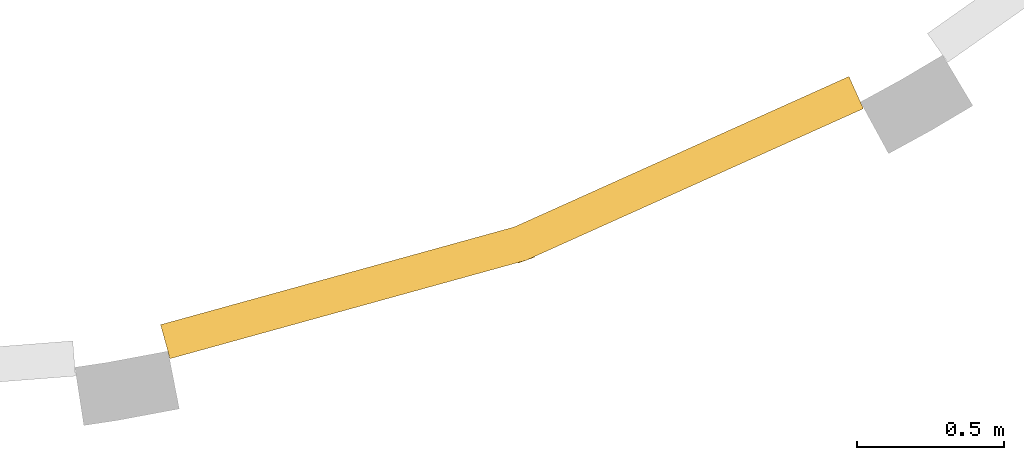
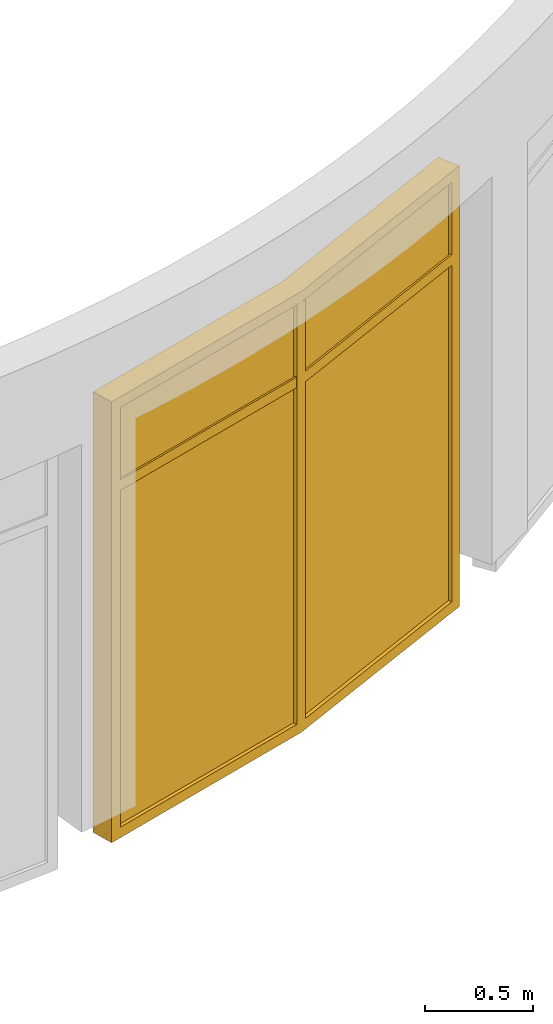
# One storey, part 5 of 7: 1 curtain wall.
"""IFC4 building model written with IfcOpenShell, lengths in millimetres."""

from ifc_helpers import new_model, entity, si_unit, converted_unit, derived_unit, direction, frame, origin_with_axes, place, context, subcontext, project, spatial, polygons, material, constituent, constituent_set, type_object, element, save


model = new_model("IFC4")

# Units and contexts
model_context = context("Model", 3, precision=0.01, world=origin_with_axes(), true_north=direction((0.0, 1.0)))
body_context = subcontext(model_context, "Body", "Model", "MODEL_VIEW")
ifc_project = project(units=[si_unit("LENGTHUNIT", "METRE", prefix="MILLI"), si_unit("AREAUNIT", "SQUARE_METRE"), si_unit("VOLUMEUNIT", "CUBIC_METRE"), converted_unit("PLANEANGLEUNIT", "DEGREE", entity("IfcPlaneAngleMeasure", 0.0174532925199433), si_unit("PLANEANGLEUNIT", "RADIAN"), dimensions=[0, 0, 0, 0, 0, 0, 0]), converted_unit("TIMEUNIT", "Year", entity("IfcTimeMeasure", 31557600.0), si_unit("TIMEUNIT", "SECOND"), dimensions=[0, 0, 1, 0, 0, 0, 0]), si_unit("MASSUNIT", "GRAM", prefix="KILO"), si_unit("THERMODYNAMICTEMPERATUREUNIT", "DEGREE_CELSIUS"), si_unit("LUMINOUSINTENSITYUNIT", "LUMEN"), si_unit("ENERGYUNIT", "JOULE", prefix="MEGA"), derived_unit("THERMALCONDUCTANCEUNIT", [(si_unit("POWERUNIT", "WATT"), 1), (si_unit("LENGTHUNIT", "METRE"), -1), (si_unit("THERMODYNAMICTEMPERATUREUNIT", "KELVIN"), -1)]), derived_unit("SPECIFICHEATCAPACITYUNIT", [(si_unit("ENERGYUNIT", "JOULE"), 1), (si_unit("MASSUNIT", "GRAM", prefix="KILO"), -1), (si_unit("THERMODYNAMICTEMPERATUREUNIT", "KELVIN"), -1)]), derived_unit("MASSDENSITYUNIT", [(si_unit("MASSUNIT", "GRAM", prefix="KILO"), 1), (si_unit("VOLUMEUNIT", "CUBIC_METRE"), -1)])], contexts=[model_context])

# Site, building, storey
site_placement = place(None, origin_with_axes())
site = spatial("IfcSite", under=ifc_project, at=site_placement, Name="Exteriér", CompositionType="ELEMENT")
building_placement = place(site_placement, origin_with_axes())
building = spatial("IfcBuilding", under=site, at=building_placement, Name="Univerzitní lezecké centrum", CompositionType="ELEMENT")
storey_placement = place(building_placement, origin_with_axes())
storey = spatial("IfcBuildingStorey", under=building, at=storey_placement, Name="1.NP", CompositionType="ELEMENT", Elevation=0.0)

# Curtain wall
ifc_material_1 = material(Name="Sklo")
ifc_constituent_1 = constituent(ifc_material_1, Name="Sklo 1")
ifc_constituent_2 = constituent(ifc_material_1, Name="Sklo 2")
ifc_constituent_3 = constituent(ifc_material_1, Name="Sklo 3")
ifc_constituent_4 = constituent(ifc_material_1, Name="Sklo 4")
ifc_material_2 = material(Name="Hliník")
ifc_constituent_5 = constituent(ifc_material_2, Name="Hliník 1")
ifc_constituent_6 = constituent(ifc_material_2, Name="Hliník 2")
ifc_constituent_7 = constituent(ifc_material_2, Name="Hliník 3")
ifc_constituent_8 = constituent(ifc_material_2, Name="Hliník 4")
ifc_constituent_9 = constituent(ifc_material_2, Name="Hliník 5")
ifc_constituent_10 = constituent(ifc_material_2, Name="Hliník 6")
ifc_constituent_11 = constituent(ifc_material_2, Name="Hliník 7")
ifc_constituent_12 = constituent(ifc_material_2, Name="Hliník 8")
ifc_constituent_13 = constituent(ifc_material_2, Name="Hliník 9")
ifc_constituent_14 = constituent(ifc_material_2, Name="Hliník 10")
ifc_constituent_15 = constituent(ifc_material_2, Name="Hliník 11")
ifc_constituent_16 = constituent(ifc_material_2, Name="Hliník 12")
ifc_constituent_set = constituent_set(constituents=[ifc_constituent_1, ifc_constituent_2, ifc_constituent_3, ifc_constituent_4, ifc_constituent_5, ifc_constituent_6, ifc_constituent_7, ifc_constituent_8, ifc_constituent_9, ifc_constituent_10, ifc_constituent_11, ifc_constituent_12, ifc_constituent_13, ifc_constituent_14, ifc_constituent_15, ifc_constituent_16])
curtain_wall_type = type_object("IfcCurtainWallType", Name="Typ lehkého obvodového pláště", PredefinedType="NOTDEFINED")
curtain_wall_placement = place(storey_placement, frame((5795.379928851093, -7755.096795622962, 0.0), z_axis=(0.0, 0.0, 1.0), x_axis=(1.0, 0.0, 0.0)))
element("IfcCurtainWall", 1, at=curtain_wall_placement, inside=storey, type_object=curtain_wall_type, material=ifc_constituent_set, Name="LOP01", PredefinedType="NOTDEFINED", context=body_context, shape_type="Tessellation", body=[
    polygons([(-575.7231105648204, -247.9418033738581, 2469.999973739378), (-567.5202684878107, -266.1822359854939, 2469.999973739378), (548.4427526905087, 235.6736476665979, 2469.999973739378), (540.2399106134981, 253.9140802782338, 2469.999973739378), (-575.7231105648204, -247.9418033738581, 2002.999991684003), (-567.5202684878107, -266.1822359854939, 2002.999991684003), (548.4427526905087, 235.6736476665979, 2002.999991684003), (540.2399106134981, 253.9140802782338, 2002.999991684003)], [[[1, 2, 3, 4]], [[5, 6, 2, 1]], [[2, 6, 7, 3]], [[4, 3, 7, 8]], [[1, 4, 8, 5]], [[8, 7, 6, 5]]], closed=True),
    polygons([(-575.7231141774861, -247.9418049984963, 1997.00000596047), (-567.5202721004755, -266.1822376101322, 1997.00000596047), (548.4427449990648, 235.6736442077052, 1997.00000596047), (540.2399029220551, 253.9140768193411, 1997.00000596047), (-575.7231141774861, -247.9418049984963, 30.00000000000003), (-567.5202721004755, -266.1822376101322, 30.00000000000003), (548.4427449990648, 235.6736442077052, 30.0), (540.2399029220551, 253.9140768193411, 30.0)], [[[1, 2, 3, 4]], [[5, 6, 2, 1]], [[2, 6, 7, 3]], [[4, 3, 7, 8]], [[1, 4, 8, 5]], [[8, 7, 6, 5]]], closed=True),
    polygons([(-1753.871751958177, -573.3620125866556, 1997.00000596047), (-1748.545250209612, -592.6396778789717, 1997.00000596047), (-569.1235785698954, -266.7604025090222, 1997.00000596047), (-574.45008031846, -247.4827372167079, 1997.00000596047), (-1753.871751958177, -573.3620125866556, 30.00000000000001), (-1748.545250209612, -592.6396778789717, 30.00000000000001), (-569.1235785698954, -266.7604025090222, 29.99999999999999), (-574.45008031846, -247.4827372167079, 29.99999999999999)], [[[1, 2, 3, 4]], [[5, 6, 2, 1]], [[2, 6, 7, 3]], [[4, 3, 7, 8]], [[1, 4, 8, 5]], [[8, 7, 6, 5]]], closed=True),
    polygons([(-1753.871748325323, -573.3620115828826, 2469.999973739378), (-1748.545246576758, -592.6396768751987, 2469.999973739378), (-569.1235706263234, -266.7604003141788, 2469.999973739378), (-574.450072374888, -247.4827350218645, 2469.999973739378), (-1753.871748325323, -573.3620115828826, 2002.999991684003), (-1748.545246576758, -592.6396768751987, 2002.999991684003), (-569.1235706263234, -266.7604003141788, 2002.999991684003), (-574.450072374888, -247.4827350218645, 2002.999991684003)], [[[1, 2, 3, 4]], [[5, 6, 2, 1]], [[2, 6, 7, 3]], [[4, 3, 7, 8]], [[1, 4, 8, 5]], [[8, 7, 6, 5]]], closed=True),
    polygons([(-575.1041888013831, -247.663470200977, 30.00000000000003), (-575.1041888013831, -247.663470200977, 60.00000000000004), (-602.3219161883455, -172.1862427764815, 60.00000000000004), (-602.3219161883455, -172.1862427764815, 0.0), (-561.4953251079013, -285.4020839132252, 0.0), (-561.4953251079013, -285.4020839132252, 60.00000000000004), (-568.2997569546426, -266.5327770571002, 60.00000000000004), (-568.2997569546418, -266.5327770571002, 30.00000000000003), (540.2399029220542, 253.9140768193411, 30.0), (512.8792540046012, 241.6098137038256, 60.0), (480.0678856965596, 314.5715441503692, 60.0), (534.7891835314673, 339.1800703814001, 0.0), (584.0062359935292, 229.7374747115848, 0.0), (529.2849381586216, 205.1289484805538, 60.0), (521.082096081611, 223.3693810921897, 60.0), (548.4427449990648, 235.6736442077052, 30.0)], [[[1, 2, 3, 4, 5, 6, 7, 8]], [[1, 9, 10, 2]], [[10, 11, 3, 2]], [[3, 11, 12, 4]], [[4, 12, 13, 5]], [[5, 13, 14, 6]], [[7, 6, 14, 15]], [[15, 16, 8, 7]], [[8, 16, 9, 1]], [[9, 16, 15, 14, 13, 12, 11, 10]]], closed=True),
    polygons([(540.2399029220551, 253.9140768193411, 2000.0), (548.4427449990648, 235.6736442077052, 2000.0), (521.082096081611, 223.3693810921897, 2000.0), (529.2849381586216, 205.1289484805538, 2000.0), (584.0062359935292, 229.7374747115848, 2000.0), (534.7891835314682, 339.1800703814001, 2000.0), (480.0678856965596, 314.5715441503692, 2000.0), (512.8792540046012, 241.6098137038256, 2000.0), (540.2399029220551, 253.9140768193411, 30.00000000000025), (548.4427449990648, 235.6736442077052, 30.00000000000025), (521.082096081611, 223.3693810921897, 59.99999999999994), (529.2849381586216, 205.1289484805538, 59.99999999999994), (584.0062359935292, 229.7374747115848, 0.0), (534.7891835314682, 339.1800703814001, 0.0), (480.0678856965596, 314.5715441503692, 60.00000000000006), (512.8792540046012, 241.6098137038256, 59.99999999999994)], [[[1, 2, 3, 4, 5, 6, 7, 8]], [[2, 1, 9, 10]], [[11, 3, 2, 10]], [[3, 11, 12, 4]], [[5, 4, 12, 13]], [[6, 5, 13, 14]], [[7, 6, 14, 15]], [[16, 8, 7, 15]], [[1, 8, 16, 9]], [[9, 16, 15, 14, 13, 12, 11, 10]]], closed=True),
    polygons([(-575.1041888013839, -247.663470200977, 60.00000000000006), (-547.663250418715, -235.3231003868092, 60.00000000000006), (-547.663250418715, -235.3231003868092, 2000.0), (-575.1041888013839, -247.663470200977, 2000.0), (-604.1055418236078, -255.6766686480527, 60.00000000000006), (-610.0999027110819, -239.0537620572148, 60.00000000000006), (-553.6576113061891, -218.7001937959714, 60.00000000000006), (-553.6576113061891, -218.7001937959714, 2000.0), (-610.0999027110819, -239.0537620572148, 2000.0), (-604.1055418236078, -255.6766686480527, 2000.0)], [[[1, 2, 3, 4]], [[5, 6, 7, 2, 1]], [[3, 2, 7, 8]], [[4, 3, 8, 9, 10]], [[10, 5, 1, 4]], [[10, 9, 6, 5]], [[9, 8, 7, 6]]], closed=True),
    polygons([(-597.3011099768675, -274.5459755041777, 2000.0), (-589.7463344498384, -295.4960534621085, 2000.0), (-533.3040430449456, -275.1424852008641, 2000.0), (-540.8588185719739, -254.1924072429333, 2000.0), (-567.520262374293, -266.1822332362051, 2000.0), (-572.0926480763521, -256.0147458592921, 2000.0), (-569.123577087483, -266.7604020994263, 2000.0), (-597.3011099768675, -274.5459755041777, 59.99999999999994), (-589.7463344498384, -295.4960534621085, 59.99999999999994), (-533.3040430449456, -275.1424852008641, 59.99999999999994), (-540.8588185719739, -254.1924072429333, 59.99999999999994), (-567.520262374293, -266.1822332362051, 60.00000000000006), (-572.0926480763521, -256.0147458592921, 60.00000000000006), (-569.123577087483, -266.7604020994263, 60.00000000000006)], [[[1, 2, 3, 4, 5, 6, 7]], [[8, 9, 2, 1]], [[3, 2, 9, 10]], [[11, 4, 3, 10]], [[4, 11, 12, 5]], [[6, 5, 12, 13]], [[13, 14, 7, 6]], [[7, 14, 8, 1]], [[14, 13, 12, 11, 10, 9, 8]]], closed=True),
    polygons([(540.2399029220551, 253.9140768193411, 2469.999914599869), (548.4427449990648, 235.6736442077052, 2469.999914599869), (521.082096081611, 223.3693810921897, 2439.999914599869), (529.2849381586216, 205.1289484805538, 2439.999914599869), (584.0062359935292, 229.7374747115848, 2499.999914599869), (534.7891835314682, 339.1800703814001, 2499.999914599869), (480.0678856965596, 314.5715441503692, 2439.999914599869), (512.8792540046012, 241.6098137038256, 2439.999914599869), (540.2399029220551, 253.9140768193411, 2000.0), (548.4427449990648, 235.6736442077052, 2000.0), (521.082096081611, 223.3693810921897, 2000.0), (529.2849381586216, 205.1289484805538, 2000.0), (584.0062359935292, 229.7374747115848, 2000.0), (534.7891835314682, 339.1800703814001, 2000.0), (480.0678856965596, 314.5715441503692, 2000.0), (512.8792540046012, 241.6098137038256, 2000.0)], [[[1, 2, 3, 4, 5, 6, 7, 8]], [[2, 1, 9, 10]], [[11, 3, 2, 10]], [[3, 11, 12, 4]], [[13, 5, 4, 12]], [[14, 6, 5, 13]], [[15, 7, 6, 14]], [[16, 8, 7, 15]], [[1, 8, 16, 9]], [[9, 16, 15, 14, 13, 12, 11, 10]]], closed=True),
    polygons([(-575.1041888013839, -247.663470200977, 2000.0), (-547.663250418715, -235.3231003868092, 2000.0), (-547.663250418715, -235.3231003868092, 2439.999966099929), (-575.1041888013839, -247.663470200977, 2439.999966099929), (-604.1055418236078, -255.6766686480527, 2000.0), (-610.0999027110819, -239.0537620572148, 2000.0), (-553.6576113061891, -218.7001937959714, 2000.0), (-553.6576113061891, -218.7001937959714, 2439.999966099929), (-610.0999027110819, -239.0537620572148, 2439.999966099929), (-604.1055418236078, -255.6766686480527, 2439.999966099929)], [[[1, 2, 3, 4]], [[5, 6, 7, 2, 1]], [[3, 2, 7, 8]], [[4, 3, 8, 9, 10]], [[10, 5, 1, 4]], [[10, 9, 6, 5]], [[8, 7, 6, 9]]], closed=True),
    polygons([(-597.3011099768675, -274.5459755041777, 2439.999966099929), (-589.7463344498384, -295.4960534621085, 2439.999966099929), (-533.3040430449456, -275.1424852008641, 2439.999966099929), (-540.8588185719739, -254.1924072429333, 2439.999966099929), (-567.520262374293, -266.1822332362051, 2439.999966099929), (-572.0926480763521, -256.0147458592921, 2439.999966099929), (-569.123577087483, -266.7604020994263, 2439.999966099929), (-597.3011099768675, -274.5459755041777, 2000.0), (-589.7463344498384, -295.4960534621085, 2000.0), (-533.3040430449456, -275.1424852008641, 2000.0), (-540.8588185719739, -254.1924072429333, 2000.0), (-567.520262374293, -266.1822332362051, 2000.0), (-572.0926480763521, -256.0147458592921, 2000.0), (-569.123577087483, -266.7604020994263, 2000.0)], [[[1, 2, 3, 4, 5, 6, 7]], [[8, 9, 2, 1]], [[2, 9, 10, 3]], [[11, 4, 3, 10]], [[4, 11, 12, 5]], [[6, 5, 12, 13]], [[13, 14, 7, 6]], [[7, 14, 8, 1]], [[14, 13, 12, 11, 10, 9, 8]]], closed=True),
    polygons([(-550.9849412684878, -225.852234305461, 1997.0), (-537.3760775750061, -263.5908480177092, 1997.0), (-537.3760775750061, -263.5908480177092, 1970.0), (-533.9738616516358, -273.0255014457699, 1970.0), (-533.9738616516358, -273.0255014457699, 2030.0), (-537.3760775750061, -263.5908480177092, 2030.0), (-537.3760775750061, -263.5908480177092, 2003.0), (-550.9849412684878, -225.852234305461, 2003.0), (-550.9849412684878, -225.852234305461, 2030.0), (-554.3871571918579, -216.4175808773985, 2030.0), (-554.3871571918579, -216.4175808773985, 1970.0), (-550.9849412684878, -225.852234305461, 1970.0), (508.7778329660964, 250.7300300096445, 1997.0), (525.1835171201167, 214.2491647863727, 1997.0), (525.1835171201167, 214.2491647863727, 1970.0), (529.2849381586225, 205.1289484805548, 1970.0), (529.2849381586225, 205.1289484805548, 2030.0), (525.1835171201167, 214.2491647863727, 2030.0), (525.1835171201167, 214.2491647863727, 2003.0), (508.7778329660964, 250.7300300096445, 2003.0), (508.7778329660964, 250.7300300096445, 2030.0), (504.6764119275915, 259.8502463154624, 2030.0), (504.6764119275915, 259.8502463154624, 1970.0), (508.7778329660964, 250.7300300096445, 1970.0)], [[[1, 2, 3, 4, 5, 6, 7, 8, 9, 10, 11, 12]], [[1, 13, 14, 2]], [[2, 14, 15, 3]], [[15, 16, 4, 3]], [[5, 4, 16, 17]], [[18, 6, 5, 17]], [[6, 18, 19, 7]], [[8, 7, 19, 20]], [[9, 8, 20, 21]], [[9, 21, 22, 10]], [[11, 10, 22, 23]], [[12, 11, 23, 24]], [[12, 24, 13, 1]], [[14, 13, 24, 23, 22, 21, 20, 19, 18, 17, 16, 15]]], closed=True),
    polygons([(-575.1041888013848, -247.663470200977, 2469.999966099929), (-568.2997569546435, -266.532777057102, 2469.999966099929), (-568.2997569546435, -266.532777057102, 2439.999966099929), (-561.4953251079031, -285.4020839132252, 2439.999966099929), (-561.4953251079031, -285.4020839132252, 2499.999966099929), (-602.3219161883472, -172.1862427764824, 2499.999966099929), (-602.3219161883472, -172.1862427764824, 2439.999966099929), (-575.1041888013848, -247.663470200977, 2439.999966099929), (540.2399029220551, 253.9140768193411, 2469.999966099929), (548.4427449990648, 235.6736442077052, 2469.999966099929), (521.082096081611, 223.3693810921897, 2439.999966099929), (529.2849381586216, 205.1289484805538, 2439.999966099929), (584.0062359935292, 229.7374747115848, 2499.999966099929), (534.7891835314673, 339.1800703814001, 2499.999966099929), (480.0678856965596, 314.5715441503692, 2439.999966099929), (512.8792540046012, 241.6098137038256, 2439.999966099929)], [[[1, 2, 3, 4, 5, 6, 7, 8]], [[2, 1, 9, 10]], [[11, 3, 2, 10]], [[3, 11, 12, 4]], [[5, 4, 12, 13]], [[6, 5, 13, 14]], [[7, 6, 14, 15]], [[16, 8, 7, 15]], [[1, 8, 16, 9]], [[9, 16, 15, 14, 13, 12, 11, 10]]], closed=True),
    polygons([(-1753.871740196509, -573.362009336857, 2000.0), (-1724.955242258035, -565.372256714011, 2000.0), (-1746.261249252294, -488.2615955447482, 2000.0), (-1804.09424512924, -504.2411007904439, 2000.0), (-1772.135234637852, -619.9070925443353, 2000.0), (-1714.302238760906, -603.9275872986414, 2000.0), (-1719.628740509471, -584.6499220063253, 2000.0), (-1748.545238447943, -592.6396746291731, 2000.0), (-1753.871740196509, -573.362009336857, 30.00000000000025), (-1724.955242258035, -565.372256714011, 59.99999999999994), (-1746.261249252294, -488.2615955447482, 60.00000000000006), (-1804.09424512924, -504.2411007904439, 0.0), (-1772.135234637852, -619.9070925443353, 0.0), (-1714.302238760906, -603.9275872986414, 59.99999999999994), (-1719.628740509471, -584.6499220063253, 59.99999999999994), (-1748.545238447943, -592.6396746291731, 30.00000000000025)], [[[1, 2, 3, 4, 5, 6, 7, 8]], [[1, 9, 10, 2]], [[10, 11, 3, 2]], [[3, 11, 12, 4]], [[4, 12, 13, 5]], [[5, 13, 14, 6]], [[7, 6, 14, 15]], [[15, 16, 8, 7]], [[8, 16, 9, 1]], [[9, 16, 15, 14, 13, 12, 11, 10]]], closed=True),
    polygons([(-1753.871740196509, -573.362009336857, 2469.999966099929), (-1724.955242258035, -565.372256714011, 2439.999966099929), (-1746.261249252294, -488.2615955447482, 2439.999966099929), (-1804.09424512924, -504.2411007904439, 2499.999966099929), (-1772.135234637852, -619.9070925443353, 2499.999966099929), (-1714.302238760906, -603.9275872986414, 2439.999966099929), (-1719.628740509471, -584.6499220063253, 2439.999966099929), (-1748.545238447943, -592.6396746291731, 2469.999966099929), (-1753.871740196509, -573.362009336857, 2000.0), (-1724.955242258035, -565.372256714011, 2000.0), (-1746.261249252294, -488.2615955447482, 2000.0), (-1804.09424512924, -504.2411007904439, 2000.0), (-1772.135234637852, -619.9070925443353, 2000.0), (-1714.302238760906, -603.9275872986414, 2000.0), (-1719.628740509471, -584.6499220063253, 2000.0), (-1748.545238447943, -592.6396746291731, 2000.0)], [[[1, 2, 3, 4, 5, 6, 7, 8]], [[1, 9, 10, 2]], [[10, 11, 3, 2]], [[11, 12, 4, 3]], [[12, 13, 5, 4]], [[13, 14, 6, 5]], [[7, 6, 14, 15]], [[15, 16, 8, 7]], [[8, 16, 9, 1]], [[9, 16, 15, 14, 13, 12, 11, 10]]], closed=True),
    polygons([(-1753.871740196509, -573.362009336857, 30.00000000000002), (-1724.955242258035, -565.372256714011, 60.00000000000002), (-1746.261249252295, -488.26159554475, 60.00000000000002), (-1804.09424512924, -504.2411007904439, 0.0), (-1772.135234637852, -619.9070925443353, 0.0), (-1714.302238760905, -603.9275872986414, 60.00000000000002), (-1719.628740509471, -584.6499220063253, 60.00000000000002), (-1748.545238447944, -592.6396746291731, 30.00000000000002), (-575.1041888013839, -247.663470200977, 30.0), (-575.1041888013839, -247.663470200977, 60.0), (-602.3219161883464, -172.1862427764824, 60.0), (-602.3219161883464, -172.1862427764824, 0.0), (-561.4953251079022, -285.4020839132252, 0.0), (-561.4953251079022, -285.4020839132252, 60.0), (-568.2997569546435, -266.532777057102, 60.0), (-568.2997569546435, -266.532777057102, 30.0)], [[[1, 2, 3, 4, 5, 6, 7, 8]], [[1, 9, 10, 2]], [[10, 11, 3, 2]], [[3, 11, 12, 4]], [[4, 12, 13, 5]], [[5, 13, 14, 6]], [[7, 6, 14, 15]], [[15, 16, 8, 7]], [[8, 16, 9, 1]], [[9, 16, 15, 14, 13, 12, 11, 10]]], closed=True),
    polygons([(-1727.618493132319, -555.733424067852, 1997.0), (-1716.965489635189, -594.2887546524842, 1997.0), (-1716.965489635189, -594.2887546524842, 1970.0), (-1714.302238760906, -603.9275872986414, 1970.0), (-1714.302238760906, -603.9275872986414, 2030.0), (-1716.965489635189, -594.2887546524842, 2030.0), (-1716.965489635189, -594.2887546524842, 2003.0), (-1727.618493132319, -555.733424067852, 2003.0), (-1727.618493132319, -555.733424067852, 2030.0), (-1730.281744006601, -546.0945914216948, 2030.0), (-1730.281744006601, -546.0945914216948, 1970.0), (-1727.618493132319, -555.733424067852, 1970.0), (-607.59286183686, -246.2655298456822, 1997.0), (-593.9839981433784, -284.0041435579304, 1997.0), (-593.9839981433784, -284.0041435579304, 1970.0), (-590.5817822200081, -293.4387969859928, 1970.0), (-590.5817822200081, -293.4387969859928, 2030.0), (-593.9839981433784, -284.0041435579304, 2030.0), (-593.9839981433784, -284.0041435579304, 2003.0), (-607.59286183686, -246.2655298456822, 2003.0), (-607.59286183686, -246.2655298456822, 2030.0), (-610.9950777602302, -236.8308764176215, 2030.0), (-610.9950777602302, -236.8308764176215, 1970.0), (-607.59286183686, -246.2655298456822, 1970.0)], [[[1, 2, 3, 4, 5, 6, 7, 8, 9, 10, 11, 12]], [[1, 13, 14, 2]], [[2, 14, 15, 3]], [[15, 16, 4, 3]], [[5, 4, 16, 17]], [[18, 6, 5, 17]], [[6, 18, 19, 7]], [[8, 7, 19, 20]], [[9, 8, 20, 21]], [[9, 21, 22, 10]], [[11, 10, 22, 23]], [[12, 11, 23, 24]], [[12, 24, 13, 1]], [[14, 13, 24, 23, 22, 21, 20, 19, 18, 17, 16, 15]]], closed=True),
    polygons([(-1753.871740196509, -573.362009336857, 2469.999966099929), (-1748.545238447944, -592.6396746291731, 2469.999966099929), (-1719.628740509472, -584.6499220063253, 2439.999966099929), (-1714.302238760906, -603.9275872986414, 2439.999966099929), (-1772.135234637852, -619.9070925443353, 2499.999966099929), (-1804.094245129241, -504.2411007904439, 2499.999966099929), (-1746.261249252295, -488.26159554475, 2439.999966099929), (-1724.955242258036, -565.372256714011, 2439.999966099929), (-575.1041888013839, -247.663470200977, 2469.999966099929), (-568.2997569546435, -266.532777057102, 2469.999966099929), (-568.2997569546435, -266.532777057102, 2439.999966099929), (-561.4953251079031, -285.4020839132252, 2439.999966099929), (-561.4953251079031, -285.4020839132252, 2499.999966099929), (-602.3219161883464, -172.1862427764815, 2499.999966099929), (-602.3219161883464, -172.1862427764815, 2439.999966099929), (-575.1041888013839, -247.663470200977, 2439.999966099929)], [[[1, 2, 3, 4, 5, 6, 7, 8]], [[2, 1, 9, 10]], [[11, 3, 2, 10]], [[3, 11, 12, 4]], [[5, 4, 12, 13]], [[6, 5, 13, 14]], [[7, 6, 14, 15]], [[16, 8, 7, 15]], [[1, 8, 16, 9]], [[9, 16, 15, 14, 13, 12, 11, 10]]], closed=True),
])

save(model, "model.ifc")
